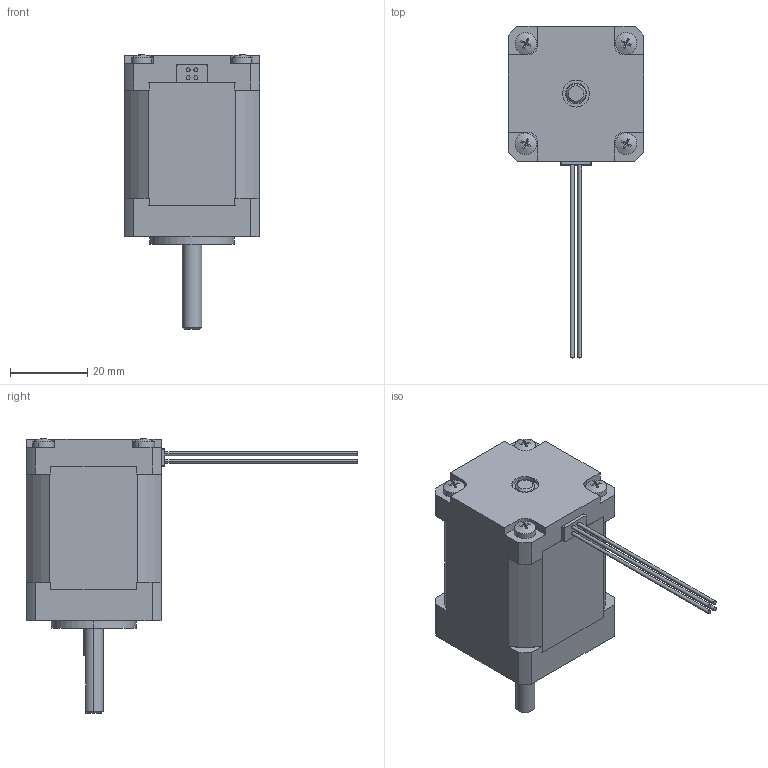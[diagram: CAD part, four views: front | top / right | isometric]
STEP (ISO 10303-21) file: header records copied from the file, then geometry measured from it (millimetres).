
FILE_DESCRIPTION (( 'STEP AP203' ), '1' );
FILE_NAME ('YK35HB47-01A.STEP', '2020-06-15T06:54:52', ( '' ), ( '' ), 'SwSTEP 2.0', 'SolidWorks 2016', '' );
FILE_SCHEMA (( 'CONFIG_CONTROL_DESIGN' ));
Length unit declared in the file: millimetre
Products named in the file (11): ヶ粣杶; 綴傷裔; 蹟隊; 蛌赽; YK35HB47-01A; ヶ傷裔; 綴粣杶; 粣創; 隅赽; 竘堤盄; 粣郋
Assembly tree (14 placements, depth 2):
  YK35HB47-01A
    隅赽
    綴傷裔
    綴粣杶
    蛌赽
    竘堤盄
    粣創  x2
    ヶ粣杶
    ヶ傷裔
    蹟隊  x4
    粣郋
Bounding box: 35 x 86 x 71.19 mm (x, y, z)
Volume: 49074.3 mm3; surface area: 28243.2 mm2
Topology: 14 solids, 14 shells, 1574 faces, 3454 edges, 1927 vertices
Faces by surface type: cone 1269, plane 153, cylinder 124, bspline 28
Entity records: 17439 total; most frequent: CARTESIAN_POINT 3109, DIRECTION 3003, ORIENTED_EDGE 2568, EDGE_CURVE 1284, AXIS2_PLACEMENT_3D 1178, VERTEX_POINT 756, VECTOR 647, LINE 647
